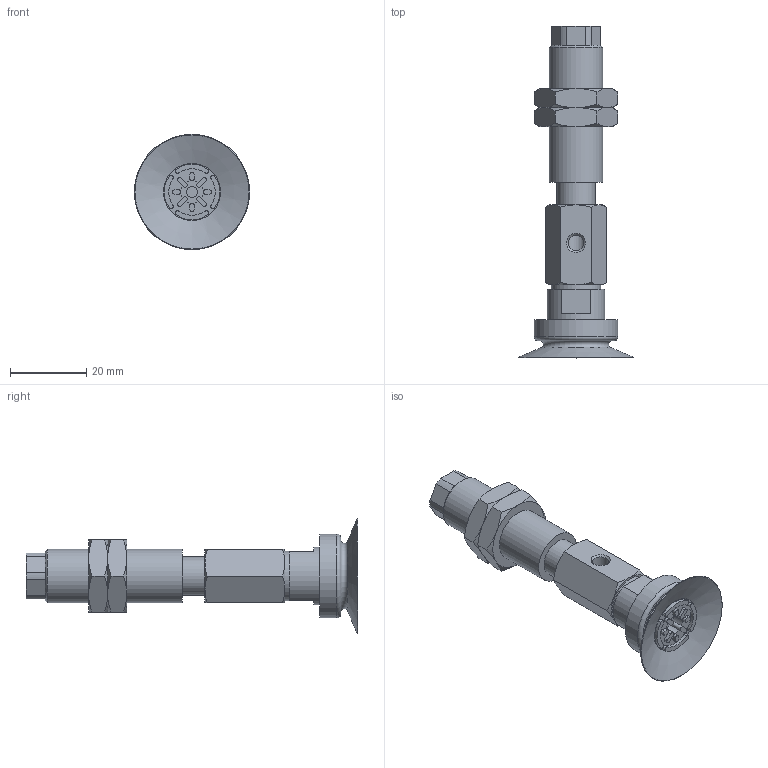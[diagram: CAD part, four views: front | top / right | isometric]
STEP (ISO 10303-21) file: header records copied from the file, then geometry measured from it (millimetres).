
FILE_DESCRIPTION(('STEP AP203'),'1');
FILE_NAME('.stp','2025-02-28T02:22:19',(' '),(' '),'Spatial InterOp 3D',' ',' ');
FILE_SCHEMA(('CONFIG_CONTROL_DESIGN'));
Length unit declared in the file: millimetre
Products named in the file (6): BNABPAYS-30-6-※; NAPAYS-30B-6--M; NAPAYS-30B-6--F; Nut-25-S; CONNECTOR-30B-6-PA; BPAG-30-※
Assembly tree (6 placements, depth 2):
  BNABPAYS-30-6-※
    NAPAYS-30B-6--M
    NAPAYS-30B-6--F
    Nut-25-S  x2
    CONNECTOR-30B-6-PA
    BPAG-30-※
Bounding box: 30.3 x 87.2 x 30.3 mm (x, y, z)
Volume: 15490.8 mm3; surface area: 11555.3 mm2
Topology: 6 solids, 6 shells, 198 faces, 454 edges, 285 vertices
Faces by surface type: plane 87, cylinder 58, cone 51, torus 2
Full cylindrical faces by diameter (mm): 3 x2, 4.134 x2, 4.6 x1, 4.917 x1, 5 x1, 6 x1, 10 x2, 12.917 x2, 13 x1, 14 x1, 15 x1, 22 x1
Entity records: 5432 total; most frequent: CARTESIAN_POINT 1205, DIRECTION 852, ORIENTED_EDGE 750, EDGE_CURVE 375, AXIS2_PLACEMENT_3D 346, VERTEX_POINT 255, EDGE_LOOP 230, FACE_OUTER_BOUND 192
